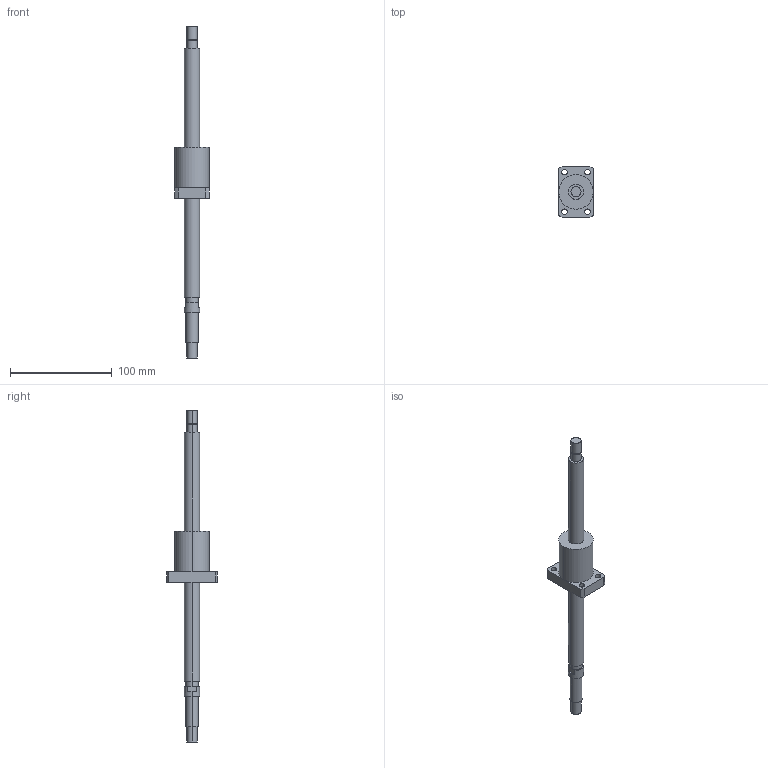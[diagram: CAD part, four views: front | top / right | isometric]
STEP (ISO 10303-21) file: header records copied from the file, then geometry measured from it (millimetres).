
FILE_DESCRIPTION((''),'2;1');
FILE_NAME('R15-10K3-FSC-239-321','2008-03-28T',('mahdi'),(''),'PRO/ENGINEER BY PARAMETRIC TECHNOLOGY CORPORATION, 2005070','PRO/ENGINEER BY PARAMETRIC TECHNOLOGY CORPORATION, 2005070','');
FILE_SCHEMA(('CONFIG_CONTROL_DESIGN'));
Length unit declared in the file: millimetre
Products named in the file (1): R15-10K3-FSC-239-321
Bounding box: 34 x 50 x 327 mm (x, y, z)
Volume: 94187.8 mm3; surface area: 22317.2 mm2
Topology: 1 solids, 1 shells, 66 faces, 148 edges, 96 vertices
Faces by surface type: cylinder 40, plane 26
Entity records: 1926 total; most frequent: DIRECTION 364, CARTESIAN_POINT 310, ORIENTED_EDGE 296, AXIS2_PLACEMENT_3D 150, EDGE_CURVE 148, VERTEX_POINT 96, EDGE_LOOP 86, CIRCLE 84
